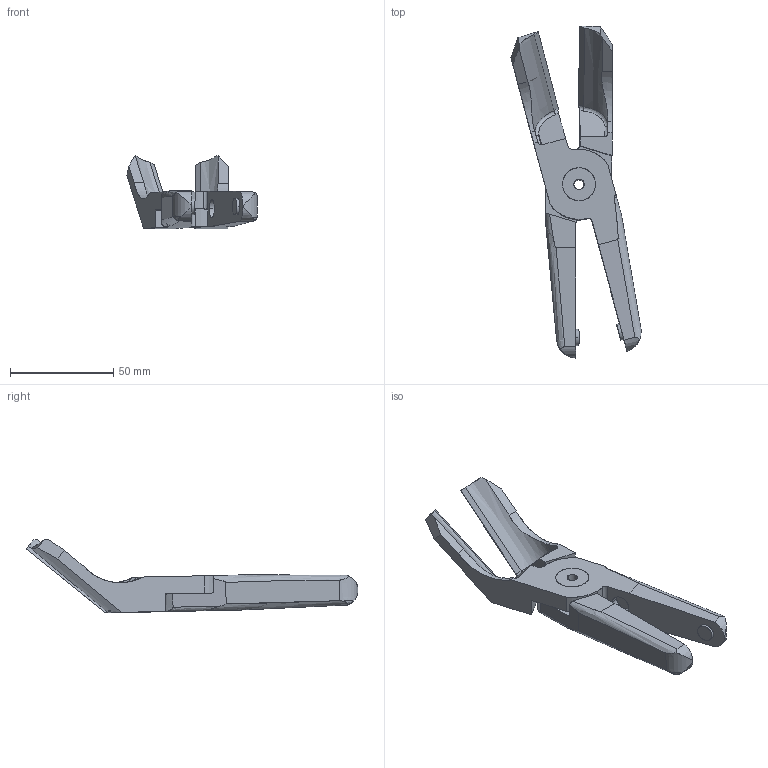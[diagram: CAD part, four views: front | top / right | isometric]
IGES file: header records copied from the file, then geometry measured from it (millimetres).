
Start section: SolidWorks IGES file using analytic representation for surfaces
Global section: file name: P:\DRAWINGS\SALES DWG FILE\Format (IGIS) 3D\N30AA165.IGS; native system: SolidWorks 2007; preprocessor: SolidWorks 2007; author: larry; date: 080108.155656; units: millimetre
Bounding box: 63.09 x 160.82 x 35.76 mm (x, y, z)
Surface area: 20493 mm2 (no closed solid volume)
Topology: 0 solids, 0 shells, 110 faces, 1451 edges, 1451 vertices
Faces by surface type: revolution 56, bspline 54
